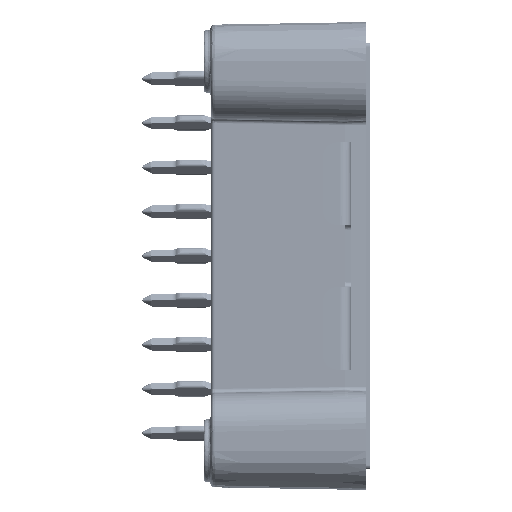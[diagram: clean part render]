
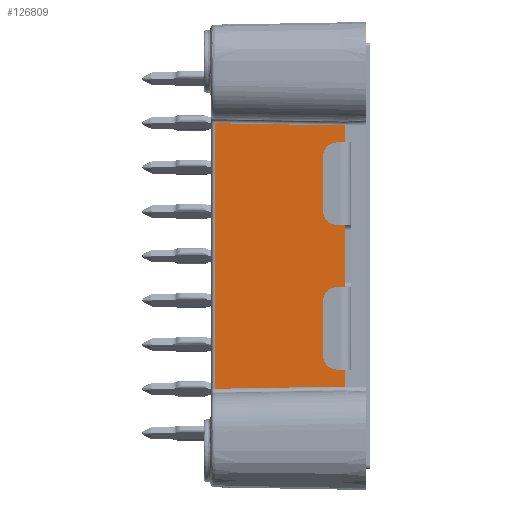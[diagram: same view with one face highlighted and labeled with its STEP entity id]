
A CAD part, left-side view. The second image highlights one B-rep face of the part: STEP entity #126809.
In plain terms, the highlighted planar face has unit normal (-1, 0.018, 0).
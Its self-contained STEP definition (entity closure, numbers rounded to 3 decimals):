
#1176 = VECTOR ( 'NONE', #86951, 1000. ) ;
#2066 = CARTESIAN_POINT ( 'NONE',  ( 33.422, 4.162, 1.228 ) ) ;
#2652 = CARTESIAN_POINT ( 'NONE',  ( 33.257, -5.274, 1.91 ) ) ;
#9647 = CARTESIAN_POINT ( 'NONE',  ( 33.257, -5.274, 19.945 ) ) ;
#9653 = LINE ( 'NONE', #74079, #62592 ) ;
#10344 = VERTEX_POINT ( 'NONE', #84622 ) ;
#11038 = CARTESIAN_POINT ( 'NONE',  ( 33.257, -5.274, 1.228 ) ) ;
#15586 = VECTOR ( 'NONE', #64556, 1000. ) ;
#15921 = EDGE_LOOP ( 'NONE', ( #125497, #115836, #54153, #48983, #136636, #116634 ) ) ;
#20932 = EDGE_CURVE ( 'NONE', #105048, #94840, #9653, .T. ) ;
#23181 = VERTEX_POINT ( 'NONE', #42531 ) ;
#26364 = CARTESIAN_POINT ( 'NONE',  ( 33.232, -6.744, 1.228 ) ) ;
#27548 = CARTESIAN_POINT ( 'NONE',  ( 33.422, 4.162, 20.518 ) ) ;
#30951 = LINE ( 'NONE', #74597, #15586 ) ;
#32798 = CARTESIAN_POINT ( 'NONE',  ( 33.257, -5.274, 2.319 ) ) ;
#35019 = EDGE_CURVE ( 'NONE', #112315, #23181, #41554, .T. ) ;
#39922 = VERTEX_POINT ( 'NONE', #102768 ) ;
#41554 = B_SPLINE_CURVE_WITH_KNOTS ( 'NONE', 3,
 ( #98647, #2652, #32798, #100732 ),
 .UNSPECIFIED., .F., .F.,
 ( 4, 4 ),
 ( 0., 1. ),
 .UNSPECIFIED. ) ;
#42018 = CARTESIAN_POINT ( 'NONE',  ( 33.257, -5.274, 20.353 ) ) ;
#42531 = CARTESIAN_POINT ( 'NONE',  ( 33.257, -5.274, 2.728 ) ) ;
#48983 = ORIENTED_EDGE ( 'NONE', *, *, #20932, .T. ) ;
#51215 = CARTESIAN_POINT ( 'NONE',  ( 33.257, -5.274, 20.353 ) ) ;
#52691 = EDGE_CURVE ( 'NONE', #10344, #112315, #30951, .T. ) ;
#53311 = CARTESIAN_POINT ( 'NONE',  ( 33.257, -5.274, 19.536 ) ) ;
#54153 = ORIENTED_EDGE ( 'NONE', *, *, #128220, .T. ) ;
#55996 = VECTOR ( 'NONE', #123009, 1000. ) ;
#62592 = VECTOR ( 'NONE', #86268, 1000. ) ;
#64042 = CARTESIAN_POINT ( 'NONE',  ( 33.257, -5.274, 19.128 ) ) ;
#64556 = DIRECTION ( 'NONE',  ( -0.017, -1., 0.017 ) ) ;
#65377 = EDGE_CURVE ( 'NONE', #23181, #39922, #130594, .T. ) ;
#74079 = CARTESIAN_POINT ( 'NONE',  ( 33.226, -7.077, 20.322 ) ) ;
#74597 = CARTESIAN_POINT ( 'NONE',  ( 33.231, -6.799, 1.528 ) ) ;
#84622 = CARTESIAN_POINT ( 'NONE',  ( 33.422, 4.162, 1.337 ) ) ;
#86268 = DIRECTION ( 'NONE',  ( 0.017, 1., 0.017 ) ) ;
#86951 = DIRECTION ( 'NONE',  ( 0., 0., 1. ) ) ;
#91523 = FACE_OUTER_BOUND ( 'NONE', #15921, .T. ) ;
#94840 = VERTEX_POINT ( 'NONE', #27548 ) ;
#98647 = CARTESIAN_POINT ( 'NONE',  ( 33.257, -5.274, 1.502 ) ) ;
#100732 = CARTESIAN_POINT ( 'NONE',  ( 33.257, -5.274, 2.728 ) ) ;
#102768 = CARTESIAN_POINT ( 'NONE',  ( 33.257, -5.274, 19.128 ) ) ;
#105048 = VERTEX_POINT ( 'NONE', #42018 ) ;
#111217 = B_SPLINE_CURVE_WITH_KNOTS ( 'NONE', 3,
 ( #64042, #53311, #9647, #51215 ),
 .UNSPECIFIED., .F., .F.,
 ( 4, 4 ),
 ( 0., 1. ),
 .UNSPECIFIED. ) ;
#112315 = VERTEX_POINT ( 'NONE', #119842 ) ;
#115391 = AXIS2_PLACEMENT_3D ( 'NONE', #26364, #135892, #123718 ) ;
#115836 = ORIENTED_EDGE ( 'NONE', *, *, #65377, .T. ) ;
#116634 = ORIENTED_EDGE ( 'NONE', *, *, #52691, .T. ) ;
#119842 = CARTESIAN_POINT ( 'NONE',  ( 33.257, -5.274, 1.502 ) ) ;
#121604 = LINE ( 'NONE', #2066, #55996 ) ;
#123009 = DIRECTION ( 'NONE',  ( 0., 0., 1. ) ) ;
#123718 = DIRECTION ( 'NONE',  ( -0.017, -1., 0. ) ) ;
#125497 = ORIENTED_EDGE ( 'NONE', *, *, #35019, .T. ) ;
#126748 = EDGE_CURVE ( 'NONE', #10344, #94840, #121604, .T. ) ;
#126809 = ADVANCED_FACE ( 'NONE', ( #91523 ), #135168, .T. ) ;
#128220 = EDGE_CURVE ( 'NONE', #39922, #105048, #111217, .T. ) ;
#130594 = LINE ( 'NONE', #11038, #1176 ) ;
#135168 = PLANE ( 'NONE',  #115391 ) ;
#135892 = DIRECTION ( 'NONE',  ( -1., 0.017, 0. ) ) ;
#136636 = ORIENTED_EDGE ( 'NONE', *, *, #126748, .F. ) ;
